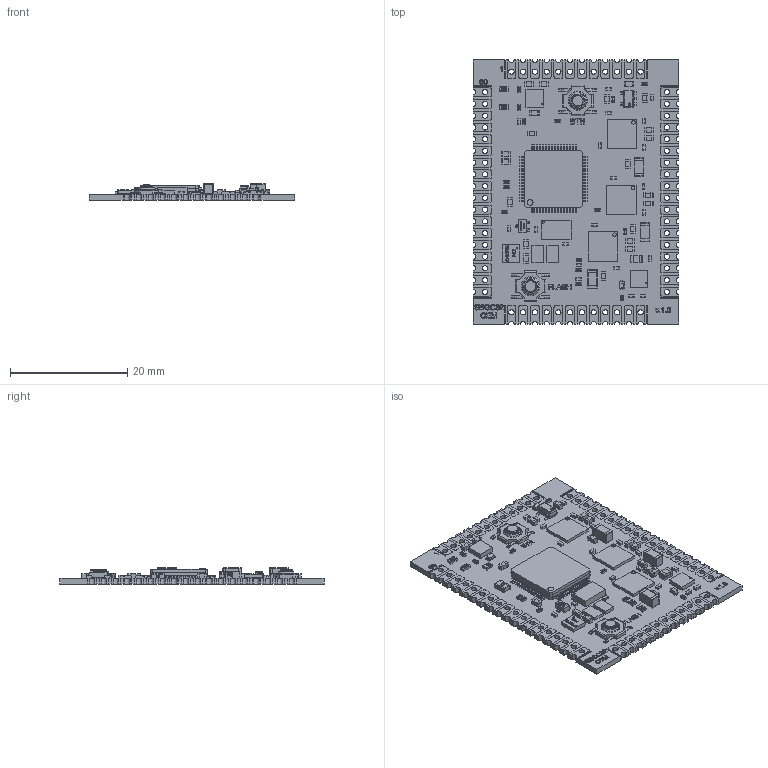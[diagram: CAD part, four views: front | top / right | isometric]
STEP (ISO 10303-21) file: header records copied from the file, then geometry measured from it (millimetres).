
FILE_DESCRIPTION(/* description */ (''),/* implementation_level */ '2;1');
FILE_NAME(/* name */ 'C:/Users/Andrew/YandexDisk/Altium/AD16/SBGC32 OEM/SBGC32_OEM_1_0_2 v6.step',/* time_stamp */ '2022-03-28T22:41:00+03:00',/* author */ (''),/* organization */ (''),/* preprocessor_version */ 'ST-DEVELOPER v18.1',/* originating_system */ 'Autodesk Translation Framework v10.13.0.1454',/* authorisation */ '');
FILE_SCHEMA (('AUTOMOTIVE_DESIGN { 1 0 10303 214 3 1 1 }'));
Products named in the file (122): SBGC32_OEM_1_0_2; Board; S2; R2; U1; SW3dPS-S-PQFP-G64; 941667904; Cylinder; 941862416; Extruded; D1; User_Library-SOD-523F; R3; C37; C33; User_Library-SMD_CAPACITOR0805; C32; C31; C25; C3; Q1; User_Library-SOT323_(SC70-3)-1; User_Library-SOT323_(SC70-3)-1_K_X_F6rper_1; User_Library-SOT323_(SC70-3)-1_Beschriftung_1; User_Library-SOT323_(SC70-3)-1_Pins_1; C4; C5; C6; C7; C8; C9; C10; C11; C12; C13; C14; C15; C16; C17; C18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
Assembly tree (184 placements, depth 4):
  SBGC32_OEM_1_0_2
    Board
    S2
      IT-1187
    R2
      RESC1005X04N
    U1
      SW3dPS-S-PQFP-G64
      941667904
        Cylinder
      941862416
        Extruded
    D1
      User_Library-SOD-523F
    R3
      RESC1005X04N
    C37
      User_Library-SMD_CAPACITOR0402
    C33
      User_Library-SMD_CAPACITOR0805  x2
    C32
      User_Library-SMD_CAPACITOR0402
    C31
      User_Library-SMD_CAPACITOR0402
    C25
      User_Library-SMD_CAPACITOR0402
    C3
      User_Library-SMD_CAPACITOR0402
    Q1
      User_Library-SOT323_(SC70-3)-1
        User_Library-SOT323_(SC70-3)-1_K_X_F6rper_1
        User_Library-SOT323_(SC70-3)-1_Beschriftung_1
        User_Library-SOT323_(SC70-3)-1_Pins_1  x3
    C4
      User_Library-SMD_CAPACITOR0402
    C5
      User_Library-SMD_CAPACITOR0402
    C6
      User_Library-SMD_CAPACITOR0402
    C7
      User_Library-SMD_CAPACITOR0603
    C8
      User_Library-SMD_CAPACITOR0402
    C9
      User_Library-SMD_CAPACITOR0603
    C10
      User_Library-SMD_CAPACITOR0603
    C11
      User_Library-SMD_CAPACITOR0603
    C12
      User_Library-SMD_CAPACITOR0603
    C13
      User_Library-CAPC3216X___CAPC3216X180N
    C14
      User_Library-SMD_CAPACITOR0402
    C15
      User_Library-SMD_CAPACITOR0402
    C16
      User_Library-SMD_CAPACITOR0603
    C17
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Bounding box: 35 x 45 x 2.82 mm (x, y, z)
Volume: 1911.2 mm3; surface area: 5823.1 mm2
Topology: 286 solids, 286 shells, 7657 faces, 19989 edges, 12704 vertices
Faces by surface type: plane 3864, cylinder 2147, bspline 975, sphere 614, torus 55, cone 2
Full cylindrical faces by diameter (mm): 0.2 x2, 0.3 x2, 0.5 x1, 0.6 x3, 0.9 x60, 1 x1, 2 x2
Entity records: 142643 total; most frequent: CARTESIAN_POINT 37784, ORIENTED_EDGE 21996, DIRECTION 18582, EDGE_CURVE 10998, LINE 7386, VECTOR 7386, VERTEX_POINT 7232, AXIS2_PLACEMENT_3D 5598
